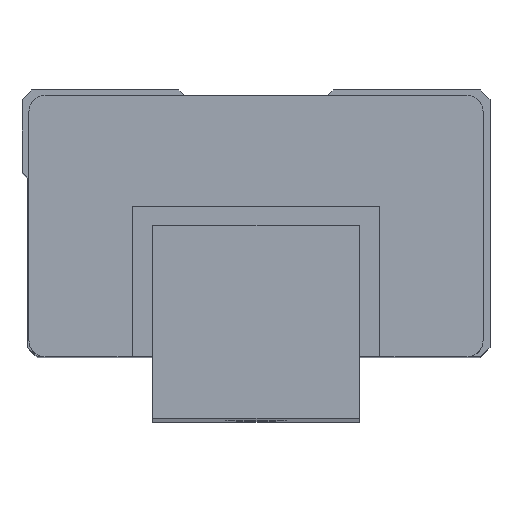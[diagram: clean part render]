
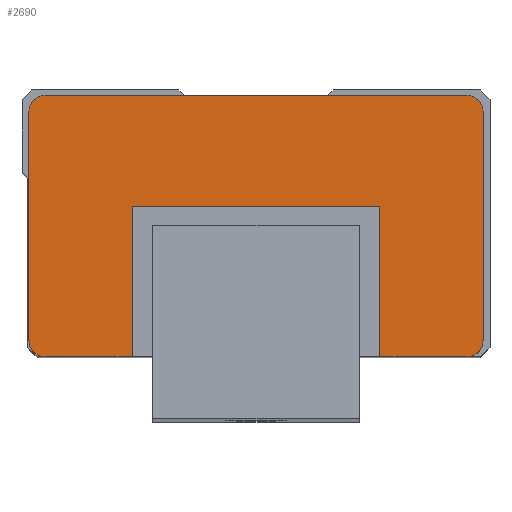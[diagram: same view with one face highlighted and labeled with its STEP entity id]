
A CAD part, top view. The second image highlights one B-rep face of the part: STEP entity #2690.
In plain terms, the highlighted planar face has unit normal (0, 0, 1).
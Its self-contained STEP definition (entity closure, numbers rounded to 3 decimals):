
#2144=CARTESIAN_POINT('',(16.5,15.5,81.1));
#2145=VERTEX_POINT('',#2144);
#2146=CARTESIAN_POINT('',(16.5,4.6,81.1));
#2147=VERTEX_POINT('',#2146);
#2148=CARTESIAN_POINT('',(16.5,15.5,81.1));
#2149=DIRECTION('',(0.0,-1.0,0.0));
#2150=VECTOR('',#2149,1.0);
#2151=LINE('',#2148,#2150);
#2152=EDGE_CURVE('',#2145,#2147,#2151,.T.);
#2184=CARTESIAN_POINT('',(-1.5,15.5,81.1));
#2185=VERTEX_POINT('',#2184);
#2186=CARTESIAN_POINT('',(-1.5,15.5,81.1));
#2187=DIRECTION('',(1.0,0.0,0.0));
#2188=VECTOR('',#2187,1.);
#2189=LINE('',#2186,#2188);
#2190=EDGE_CURVE('',#2185,#2145,#2189,.T.);
#2215=CARTESIAN_POINT('',(-1.5,4.6,81.1));
#2216=VERTEX_POINT('',#2215);
#2217=CARTESIAN_POINT('',(-1.5,4.6,81.1));
#2218=DIRECTION('',(0.0,1.0,0.0));
#2219=VECTOR('',#2218,1.0);
#2220=LINE('',#2217,#2219);
#2221=EDGE_CURVE('',#2216,#2185,#2220,.T.);
#2305=CARTESIAN_POINT('',(22.8,4.6,81.1));
#2306=VERTEX_POINT('',#2305);
#2313=CARTESIAN_POINT('',(22.8,4.6,81.1));
#2314=DIRECTION('',(-1.0,0.0,0.0));
#2315=VECTOR('',#2314,1.0);
#2316=LINE('',#2313,#2315);
#2317=EDGE_CURVE('',#2306,#2147,#2316,.T.);
#2434=CARTESIAN_POINT('',(-7.8,4.6,81.1));
#2435=VERTEX_POINT('',#2434);
#2436=CARTESIAN_POINT('',(-1.5,4.6,81.1));
#2437=DIRECTION('',(-1.0,0.0,0.0));
#2438=VECTOR('',#2437,1.0);
#2439=LINE('',#2436,#2438);
#2440=EDGE_CURVE('',#2216,#2435,#2439,.T.);
#2465=CARTESIAN_POINT('',(22.8,23.6,81.1));
#2466=VERTEX_POINT('',#2465);
#2467=CARTESIAN_POINT('',(24.,22.4,81.1));
#2468=VERTEX_POINT('',#2467);
#2469=CARTESIAN_POINT('',(22.8,22.4,81.1));
#2470=DIRECTION('',(0.,0.,-1.0));
#2471=DIRECTION('',(0.,1.0,0.));
#2472=AXIS2_PLACEMENT_3D('',#2469,#2470,#2471);
#2473=CIRCLE('',#2472,1.2);
#2474=EDGE_CURVE('',#2466,#2468,#2473,.T.);
#2497=CARTESIAN_POINT('',(24.,5.8,81.1));
#2498=VERTEX_POINT('',#2497);
#2499=CARTESIAN_POINT('',(24.,22.4,81.1));
#2500=DIRECTION('',(0.0,-1.0,0.0));
#2501=VECTOR('',#2500,1.0);
#2502=LINE('',#2499,#2501);
#2503=EDGE_CURVE('',#2468,#2498,#2502,.T.);
#2521=CARTESIAN_POINT('',(22.8,5.8,81.1));
#2522=DIRECTION('',(0.,0.,-1.0));
#2523=DIRECTION('',(1.0,0.,0.));
#2524=AXIS2_PLACEMENT_3D('',#2521,#2522,#2523);
#2525=CIRCLE('',#2524,1.2);
#2526=EDGE_CURVE('',#2498,#2306,#2525,.T.);
#2585=CARTESIAN_POINT('',(-9.,5.8,81.1));
#2586=VERTEX_POINT('',#2585);
#2587=CARTESIAN_POINT('',(-7.8,5.8,81.1));
#2588=DIRECTION('',(0.,0.,-1.0));
#2589=DIRECTION('',(0.,-1.0,0.));
#2590=AXIS2_PLACEMENT_3D('',#2587,#2588,#2589);
#2591=CIRCLE('',#2590,1.2);
#2592=EDGE_CURVE('',#2435,#2586,#2591,.T.);
#2610=CARTESIAN_POINT('',(-9.,22.4,81.1));
#2611=VERTEX_POINT('',#2610);
#2612=CARTESIAN_POINT('',(-9.,5.8,81.1));
#2613=DIRECTION('',(0.0,1.0,0.0));
#2614=VECTOR('',#2613,1.0);
#2615=LINE('',#2612,#2614);
#2616=EDGE_CURVE('',#2586,#2611,#2615,.T.);
#2634=CARTESIAN_POINT('',(-7.8,23.6,81.1));
#2635=VERTEX_POINT('',#2634);
#2636=CARTESIAN_POINT('',(-7.8,22.4,81.1));
#2637=DIRECTION('',(0.0,0.0,-1.0));
#2638=DIRECTION('',(-1.0,0.0,0.0));
#2639=AXIS2_PLACEMENT_3D('',#2636,#2637,#2638);
#2640=CIRCLE('',#2639,1.2);
#2641=EDGE_CURVE('',#2611,#2635,#2640,.T.);
#2659=CARTESIAN_POINT('',(-7.8,23.6,81.1));
#2660=DIRECTION('',(1.0,0.0,0.0));
#2661=VECTOR('',#2660,1.0);
#2662=LINE('',#2659,#2661);
#2663=EDGE_CURVE('',#2635,#2466,#2662,.T.);
#2671=CARTESIAN_POINT('',(-10.65,3.65,81.1));
#2672=DIRECTION('',(0.0,0.0,1.0));
#2673=DIRECTION('',(1.0,0.0,0.0));
#2674=AXIS2_PLACEMENT_3D('',#2671,#2672,#2673);
#2675=PLANE('',#2674);
#2676=ORIENTED_EDGE('',*,*,#2152,.T.);
#2677=ORIENTED_EDGE('',*,*,#2317,.F.);
#2678=ORIENTED_EDGE('',*,*,#2526,.F.);
#2679=ORIENTED_EDGE('',*,*,#2503,.F.);
#2680=ORIENTED_EDGE('',*,*,#2474,.F.);
#2681=ORIENTED_EDGE('',*,*,#2663,.F.);
#2682=ORIENTED_EDGE('',*,*,#2641,.F.);
#2683=ORIENTED_EDGE('',*,*,#2616,.F.);
#2684=ORIENTED_EDGE('',*,*,#2592,.F.);
#2685=ORIENTED_EDGE('',*,*,#2440,.F.);
#2686=ORIENTED_EDGE('',*,*,#2221,.T.);
#2687=ORIENTED_EDGE('',*,*,#2190,.T.);
#2688=EDGE_LOOP('',(#2676,#2677,#2678,#2679,#2680,#2681,#2682,#2683,#2684,#2685,#2686,#2687));
#2689=FACE_OUTER_BOUND('',#2688,.T.);
#2690=ADVANCED_FACE('',(#2689),#2675,.T.);
